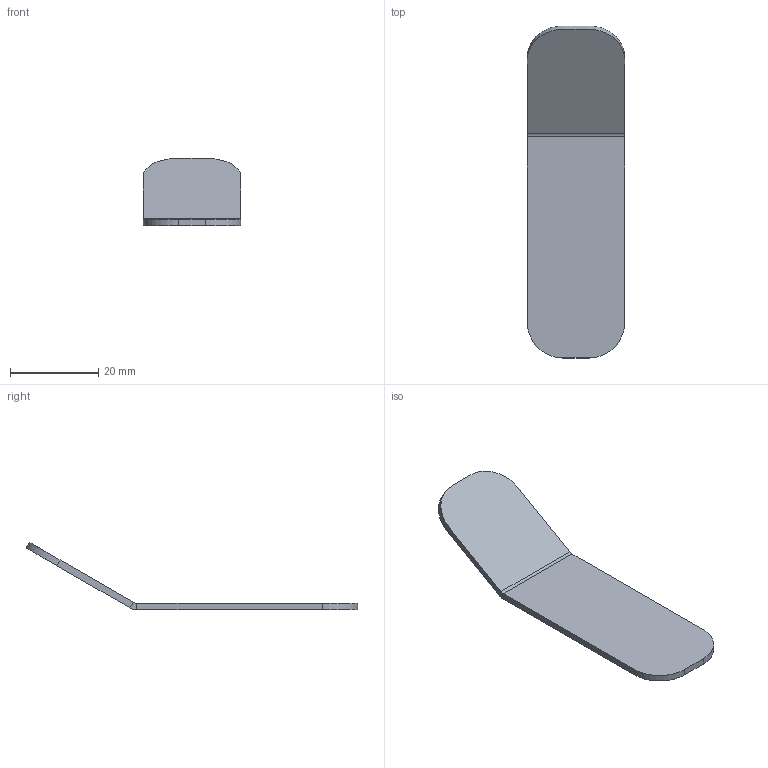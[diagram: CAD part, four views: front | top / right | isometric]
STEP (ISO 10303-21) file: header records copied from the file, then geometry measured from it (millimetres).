
FILE_DESCRIPTION (( 'STEP AP214' ), '1' );
FILE_NAME ('Wieszak na rêczniki przyklejany.STEP', '2023-05-11T10:42:19', ( '' ), ( '' ), 'SwSTEP 2.0', 'SolidWorks 2021', '' );
FILE_SCHEMA (( 'AUTOMOTIVE_DESIGN' ));
Length unit declared in the file: millimetre
Products named in the file (1): Wieszak na rêczniki przyklejany
Bounding box: 22 x 75.05 x 15.3 mm (x, y, z)
Volume: 2503.9 mm3; surface area: 3619.1 mm2
Topology: 1 solids, 1 shells, 18 faces, 40 edges, 24 vertices
Faces by surface type: plane 12, cylinder 6
Entity records: 526 total; most frequent: DIRECTION 90, CARTESIAN_POINT 83, ORIENTED_EDGE 80, EDGE_CURVE 40, AXIS2_PLACEMENT_3D 31, LINE 28, VECTOR 28, VERTEX_POINT 24
